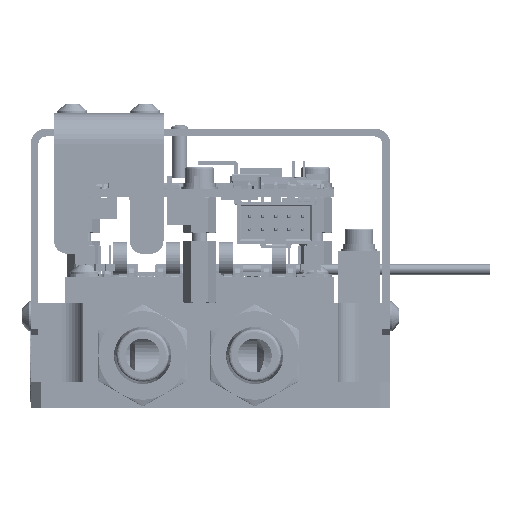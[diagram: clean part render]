
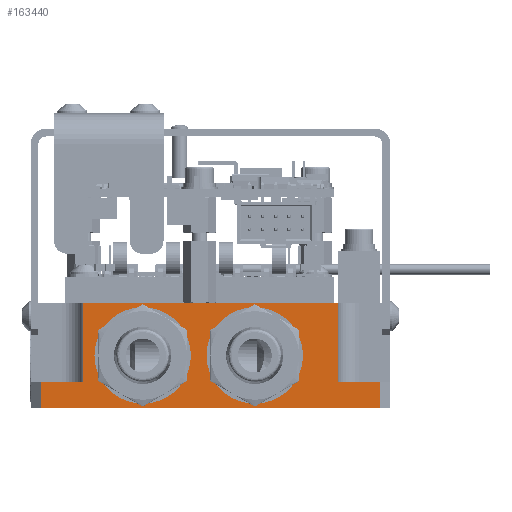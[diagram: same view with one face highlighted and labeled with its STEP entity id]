
A CAD part, left-side view. The second image highlights one B-rep face of the part: STEP entity #163440.
In plain terms, the highlighted planar face has unit normal (-1, 0, 0).
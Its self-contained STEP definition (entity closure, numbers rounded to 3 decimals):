
#14690 = CARTESIAN_POINT ( 'NONE',  ( -92., 13., 0.75 ) ) ;
#42624 = EDGE_CURVE ( 'NONE', #175739, #430654, #623221, .T. ) ;
#43536 = FACE_BOUND ( 'NONE', #412847, .T. ) ;
#45768 = DIRECTION ( 'NONE',  ( -1., 0., 0. ) ) ;
#46161 = CARTESIAN_POINT ( 'NONE',  ( -92., 32.5, 0. ) ) ;
#56816 = LINE ( 'NONE', #186351, #533818 ) ;
#63885 = EDGE_CURVE ( 'NONE', #656030, #263744, #828693, .T. ) ;
#64636 = ORIENTED_EDGE ( 'NONE', *, *, #42624, .F. ) ;
#85636 = EDGE_CURVE ( 'NONE', #754807, #656030, #99930, .T. ) ;
#91076 = EDGE_CURVE ( 'NONE', #430654, #175739, #359004, .T. ) ;
#99930 = LINE ( 'NONE', #151090, #566176 ) ;
#119069 = LINE ( 'NONE', #449975, #367513 ) ;
#130521 = EDGE_CURVE ( 'NONE', #320379, #263744, #812581, .T. ) ;
#136498 = FACE_BOUND ( 'NONE', #279055, .T. ) ;
#151090 = CARTESIAN_POINT ( 'NONE',  ( -92., 24.5, -14.142 ) ) ;
#161289 = ORIENTED_EDGE ( 'NONE', *, *, #130521, .T. ) ;
#163440 = ADVANCED_FACE ( 'NONE', ( #43536, #136498, #686184 ), #203621, .F. ) ;
#170015 = LINE ( 'NONE', #409113, #511641 ) ;
#175739 = VERTEX_POINT ( 'NONE', #14690 ) ;
#186249 = ORIENTED_EDGE ( 'NONE', *, *, #321197, .F. ) ;
#186351 = CARTESIAN_POINT ( 'NONE',  ( -92., -34.5, 5. ) ) ;
#193891 = DIRECTION ( 'NONE',  ( -1., 0., 0. ) ) ;
#203621 = PLANE ( 'NONE',  #310884 ) ;
#203892 = VECTOR ( 'NONE', #256766, 1000. ) ;
#214702 = CARTESIAN_POINT ( 'NONE',  ( -92., -24.5, 20. ) ) ;
#218083 = DIRECTION ( 'NONE',  ( 0., 0., 1. ) ) ;
#234296 = EDGE_CURVE ( 'NONE', #754807, #858873, #784486, .T. ) ;
#253198 = EDGE_CURVE ( 'NONE', #858873, #698341, #571898, .T. ) ;
#256766 = DIRECTION ( 'NONE',  ( 0., 1., 0. ) ) ;
#257636 = DIRECTION ( 'NONE',  ( 0., 0., 1. ) ) ;
#263744 = VERTEX_POINT ( 'NONE', #214702 ) ;
#270256 = DIRECTION ( 'NONE',  ( 1., 0., 0. ) ) ;
#279055 = EDGE_LOOP ( 'NONE', ( #802529, #64636 ) ) ;
#289319 = CARTESIAN_POINT ( 'NONE',  ( -92., 13., 10. ) ) ;
#305279 = ORIENTED_EDGE ( 'NONE', *, *, #234296, .T. ) ;
#310884 = AXIS2_PLACEMENT_3D ( 'NONE', #667205, #270256, #603421 ) ;
#320379 = VERTEX_POINT ( 'NONE', #505160 ) ;
#321197 = EDGE_CURVE ( 'NONE', #480824, #507210, #608028, .T. ) ;
#324799 = CARTESIAN_POINT ( 'NONE',  ( -92., -32.5, 0. ) ) ;
#329124 = VERTEX_POINT ( 'NONE', #324799 ) ;
#358742 = ORIENTED_EDGE ( 'NONE', *, *, #630952, .T. ) ;
#359004 = CIRCLE ( 'NONE', #409481, 9.25 ) ;
#367513 = VECTOR ( 'NONE', #510892, 1000. ) ;
#372577 = VECTOR ( 'NONE', #769561, 1000. ) ;
#377528 = CARTESIAN_POINT ( 'NONE',  ( -92., 24.5, 5. ) ) ;
#379139 = DIRECTION ( 'NONE',  ( 0., 0., -1. ) ) ;
#381383 = CARTESIAN_POINT ( 'NONE',  ( -92., 34.5, 5. ) ) ;
#409113 = CARTESIAN_POINT ( 'NONE',  ( -92., 34.5, 0. ) ) ;
#409481 = AXIS2_PLACEMENT_3D ( 'NONE', #289319, #811324, #413869 ) ;
#412847 = EDGE_LOOP ( 'NONE', ( #186249, #723853 ) ) ;
#413869 = DIRECTION ( 'NONE',  ( 0., 0., 1. ) ) ;
#415145 = CARTESIAN_POINT ( 'NONE',  ( -92., 13., 19.25 ) ) ;
#426982 = ORIENTED_EDGE ( 'NONE', *, *, #852238, .T. ) ;
#430654 = VERTEX_POINT ( 'NONE', #415145 ) ;
#434431 = CARTESIAN_POINT ( 'NONE',  ( -92., 24.5, 20. ) ) ;
#449975 = CARTESIAN_POINT ( 'NONE',  ( -92., -32.5, 20. ) ) ;
#453936 = DIRECTION ( 'NONE',  ( 0., 0., 1. ) ) ;
#480824 = VERTEX_POINT ( 'NONE', #670170 ) ;
#496958 = CARTESIAN_POINT ( 'NONE',  ( -92., -8.5, 0.75 ) ) ;
#505160 = CARTESIAN_POINT ( 'NONE',  ( -92., -24.5, 5. ) ) ;
#507210 = VERTEX_POINT ( 'NONE', #496958 ) ;
#508457 = CARTESIAN_POINT ( 'NONE',  ( -92., 34.5, 20. ) ) ;
#510892 = DIRECTION ( 'NONE',  ( 0., 0., 1. ) ) ;
#511641 = VECTOR ( 'NONE', #824044, 1000. ) ;
#521940 = VECTOR ( 'NONE', #218083, 1000. ) ;
#533818 = VECTOR ( 'NONE', #722331, 1000. ) ;
#542463 = CARTESIAN_POINT ( 'NONE',  ( -92., -24.5, -14.142 ) ) ;
#562275 = CIRCLE ( 'NONE', #704830, 9.25 ) ;
#566176 = VECTOR ( 'NONE', #614627, 1000. ) ;
#571898 = LINE ( 'NONE', #849012, #737687 ) ;
#581558 = ORIENTED_EDGE ( 'NONE', *, *, #63885, .F. ) ;
#583965 = ORIENTED_EDGE ( 'NONE', *, *, #852174, .T. ) ;
#602199 = CARTESIAN_POINT ( 'NONE',  ( -92., -32.5, 5. ) ) ;
#603421 = DIRECTION ( 'NONE',  ( 0., 0., -1. ) ) ;
#608028 = CIRCLE ( 'NONE', #844217, 9.25 ) ;
#614627 = DIRECTION ( 'NONE',  ( 0., 0., 1. ) ) ;
#623221 = CIRCLE ( 'NONE', #655496, 9.25 ) ;
#630952 = EDGE_CURVE ( 'NONE', #698341, #329124, #170015, .T. ) ;
#642637 = CARTESIAN_POINT ( 'NONE',  ( -92., -8.5, 10. ) ) ;
#655496 = AXIS2_PLACEMENT_3D ( 'NONE', #712688, #193891, #257636 ) ;
#656030 = VERTEX_POINT ( 'NONE', #434431 ) ;
#667205 = CARTESIAN_POINT ( 'NONE',  ( -92., 34.5, 20. ) ) ;
#670170 = CARTESIAN_POINT ( 'NONE',  ( -92., -8.5, 19.25 ) ) ;
#682226 = CARTESIAN_POINT ( 'NONE',  ( -92., 32.5, 5. ) ) ;
#686184 = FACE_OUTER_BOUND ( 'NONE', #855504, .T. ) ;
#698341 = VERTEX_POINT ( 'NONE', #46161 ) ;
#704830 = AXIS2_PLACEMENT_3D ( 'NONE', #784642, #787511, #453936 ) ;
#712688 = CARTESIAN_POINT ( 'NONE',  ( -92., 13., 10. ) ) ;
#722331 = DIRECTION ( 'NONE',  ( 0., 1., 0. ) ) ;
#723853 = ORIENTED_EDGE ( 'NONE', *, *, #822886, .F. ) ;
#737687 = VECTOR ( 'NONE', #379139, 1000. ) ;
#754807 = VERTEX_POINT ( 'NONE', #377528 ) ;
#767433 = DIRECTION ( 'NONE',  ( 0., 0., 1. ) ) ;
#769561 = DIRECTION ( 'NONE',  ( 0., -1., 0. ) ) ;
#784486 = LINE ( 'NONE', #381383, #203892 ) ;
#784642 = CARTESIAN_POINT ( 'NONE',  ( -92., -8.5, 10. ) ) ;
#787511 = DIRECTION ( 'NONE',  ( -1., 0., 0. ) ) ;
#802529 = ORIENTED_EDGE ( 'NONE', *, *, #91076, .F. ) ;
#803732 = ORIENTED_EDGE ( 'NONE', *, *, #253198, .T. ) ;
#811324 = DIRECTION ( 'NONE',  ( -1., 0., 0. ) ) ;
#812581 = LINE ( 'NONE', #542463, #521940 ) ;
#822886 = EDGE_CURVE ( 'NONE', #507210, #480824, #562275, .T. ) ;
#824044 = DIRECTION ( 'NONE',  ( 0., -1., 0. ) ) ;
#828693 = LINE ( 'NONE', #508457, #372577 ) ;
#843541 = VERTEX_POINT ( 'NONE', #602199 ) ;
#844217 = AXIS2_PLACEMENT_3D ( 'NONE', #642637, #45768, #767433 ) ;
#849012 = CARTESIAN_POINT ( 'NONE',  ( -92., 32.5, 20. ) ) ;
#852174 = EDGE_CURVE ( 'NONE', #329124, #843541, #119069, .T. ) ;
#852238 = EDGE_CURVE ( 'NONE', #843541, #320379, #56816, .T. ) ;
#855504 = EDGE_LOOP ( 'NONE', ( #358742, #583965, #426982, #161289, #581558, #859672, #305279, #803732 ) ) ;
#858873 = VERTEX_POINT ( 'NONE', #682226 ) ;
#859672 = ORIENTED_EDGE ( 'NONE', *, *, #85636, .F. ) ;
